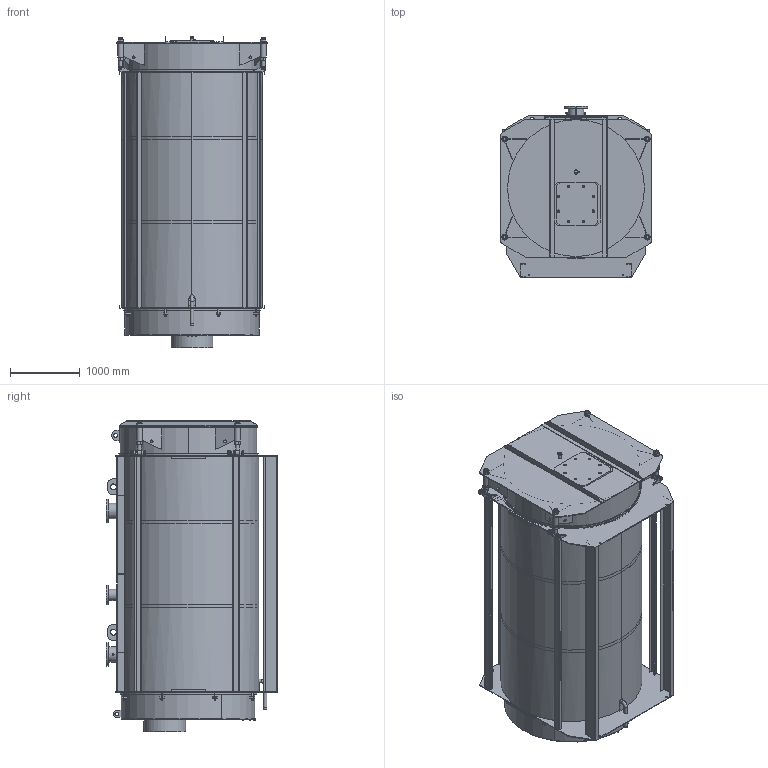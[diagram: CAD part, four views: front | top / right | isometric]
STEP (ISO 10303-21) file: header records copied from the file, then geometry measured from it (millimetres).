
FILE_DESCRIPTION(('STEP AP203'), '1');
FILE_NAME('Êîòåë 3500 êÂò', '', ('UNSPECIFIED'), ('UNSPECIFIED'), 'ASCON STEP Converter 1.6', 'ASCON Math Kernel', '');
FILE_SCHEMA(('CONFIG_CONTROL_DESIGN'));
Length unit declared in the file: millimetre
Bounding box: 2150 x 2451 x 4446.03 mm (x, y, z)
Volume: 351147038.7 mm3; surface area: 96896524.6 mm2
Topology: 34 solids, 34 shells, 1880 faces, 4564 edges, 2879 vertices
Faces by surface type: plane 1180, cylinder 488, cone 185, torus 19, bspline 8
Full cylindrical faces by diameter (mm): 4 x4, 4.1 x4, 4.8 x1, 6 x15, 7.6 x1, 8 x2, 9.728 x1, 10 x3, 12 x4, 13.835 x8, 14.5 x1, 15 x1, 15.7 x1, 16 x17, 17 x20, 18.632 x2, 20 x3, 20.955 x3, 21.3 x1, 22 x32, 26.8 x2, 27 x2, 28 x1, 30 x8, 30.8 x4, 31 x4, 36.6 x1, 38 x1, 40 x9, 41 x2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
Entity records: 89467 total; most frequent: CARTESIAN_POINT 31585, DIRECTION 8573, ORIENTED_EDGE 8224, EDGE_CURVE 4112, AXIS2_PLACEMENT_3D 3145, VERTEX_POINT 2878, EDGE_LOOP 2723, LINE 2283
